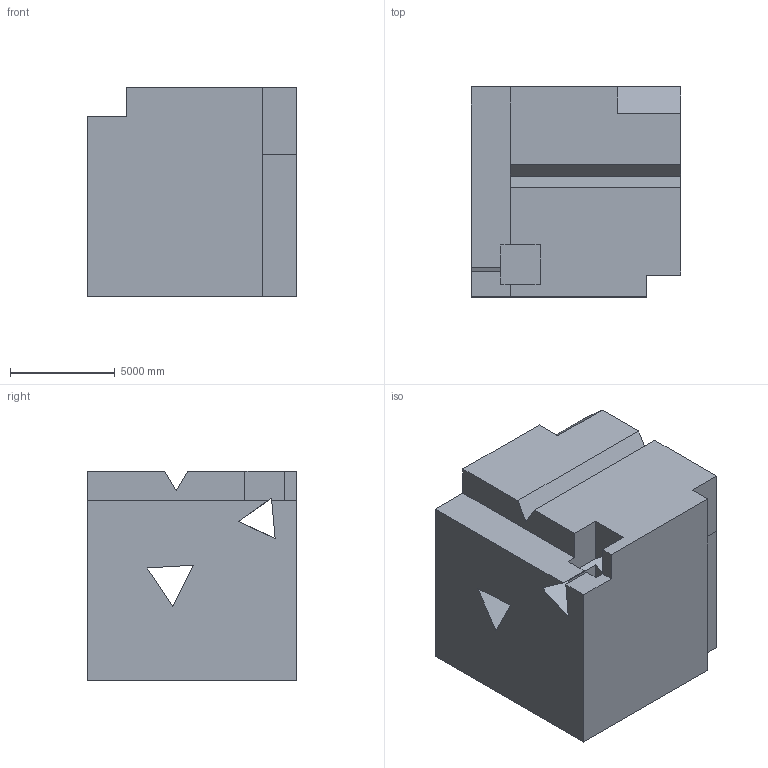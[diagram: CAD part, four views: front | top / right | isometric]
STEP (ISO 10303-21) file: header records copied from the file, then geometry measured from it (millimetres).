
FILE_DESCRIPTION (( 'STEP AP203' ), '1' );
FILE_NAME ('171.STEP', '2022-08-31T12:08:23', ( 'user' ), ( '' ), 'SwSTEP 2.0', 'SolidWorks 2021', '' );
FILE_SCHEMA (( 'CONFIG_CONTROL_DESIGN' ));
Length unit declared in the file: centimetre
Products named in the file (1): 171
Bounding box: 10000 x 10000 x 10000 mm (x, y, z)
Volume: 869247401743.8 mm3; surface area: 799913277.9 mm2
Topology: 1 solids, 1 shells, 47 faces, 138 edges, 92 vertices
Faces by surface type: plane 41, cylinder 6
Entity records: 1629 total; most frequent: CARTESIAN_POINT 314, ORIENTED_EDGE 276, DIRECTION 230, EDGE_CURVE 138, VECTOR 118, LINE 118, VERTEX_POINT 92, AXIS2_PLACEMENT_3D 56
